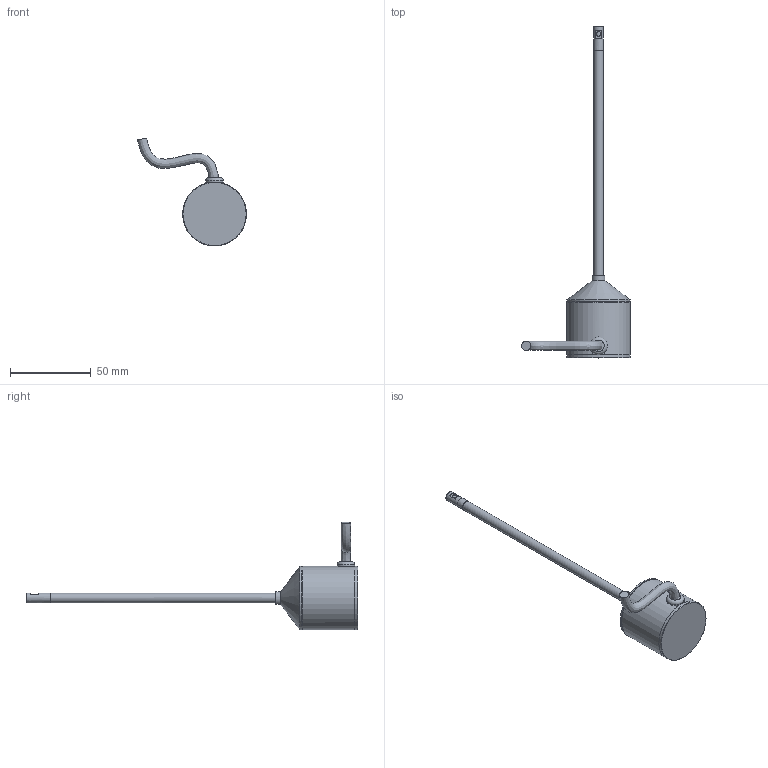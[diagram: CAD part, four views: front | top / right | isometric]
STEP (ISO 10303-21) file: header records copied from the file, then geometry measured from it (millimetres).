
FILE_DESCRIPTION (( 'STEP AP203' ), '1' );
FILE_NAME ('Zusammenbau_UV_Probe_V5_defeature_150mm_side_on.STEP', '2026-09-02T08:56:12', ( '' ), ( '' ), 'SwSTEP 2.0', 'SolidWorks 2025', '' );
FILE_SCHEMA (( 'CONFIG_CONTROL_DESIGN' ));
Length unit declared in the file: millimetre
Products named in the file (1): Zusammenbau_UV_Probe_V5_defeature_150mm_side_on
Bounding box: 67.6 x 206 x 66.94 mm (x, y, z)
Volume: 58004.8 mm3; surface area: 23788.1 mm2
Topology: 7 solids, 7 shells, 96 faces, 184 edges, 121 vertices
Faces by surface type: plane 42, cylinder 39, torus 8, cone 5, bspline 1, sphere 1
Full cylindrical faces by diameter (mm): 0.6 x4, 3 x2, 5 x2, 6 x4, 7 x1, 8 x2, 9.9 x1, 11 x2, 34.9 x1, 37 x1, 39.6 x4
Entity records: 2642 total; most frequent: CARTESIAN_POINT 762, DIRECTION 403, ORIENTED_EDGE 280, AXIS2_PLACEMENT_3D 182, EDGE_LOOP 150, EDGE_CURVE 140, FACE_OUTER_BOUND 128, VERTEX_POINT 112
